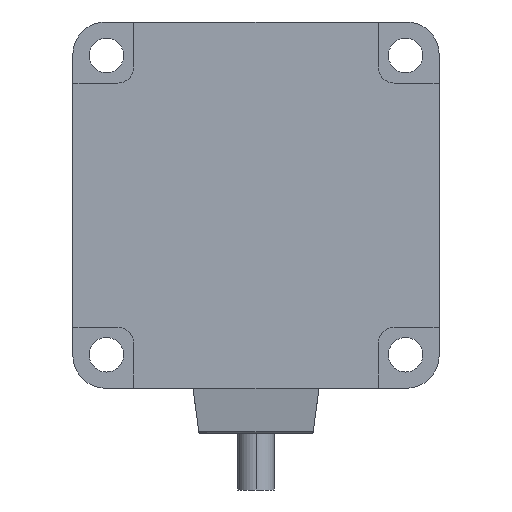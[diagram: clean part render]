
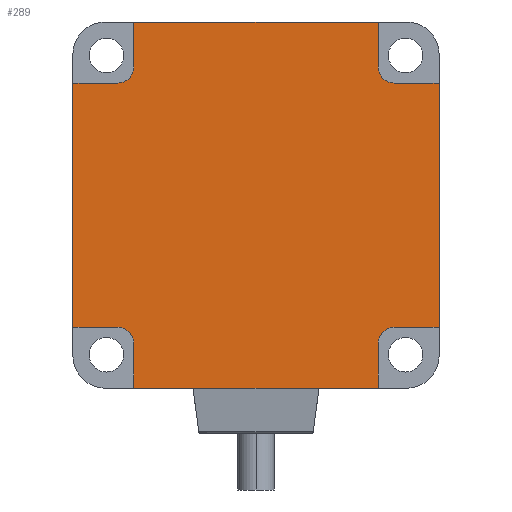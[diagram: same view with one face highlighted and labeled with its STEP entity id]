
A CAD part, left-side view. The second image highlights one B-rep face of the part: STEP entity #289.
In plain terms, the highlighted planar face has unit normal (-1, 0, 0).
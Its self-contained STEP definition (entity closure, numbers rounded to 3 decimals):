
#150=CARTESIAN_POINT('POINT242630',(-59.,44.99,-30.));
#151=VERTEX_POINT('VERTEX242630',#150);
#152=CARTESIAN_POINT('POINT242631',(-59.,34.,-30.));
#153=VERTEX_POINT('VERTEX242631',#152);
#154=CARTESIAN_POINT('POS414231',(-59.,17.,-30.));
#155=DIRECTION('DIR602379',(0.,-1.,0.));
#156=VECTOR('VEC226083',#155,1.);
#157=LINE('STRAIGHT226083',#154,#156);
#158=EDGE_CURVE('EDGE375135',#151,#153,#157,.T.);
#159=ORIENTED_EDGE('COEDGE750433',*,*,#158,.T.);
#160=CARTESIAN_POINT('POINT242632',(-59.,30.,-34.));
#161=VERTEX_POINT('VERTEX242632',#160);
#162=CARTESIAN_POINT('POS414232',(-59.,34.,-34.));
#163=DIRECTION('DIR602380',(1.,0.,0.));
#164=DIRECTION('DIR602381',(0.,-1.,0.));
#165=AXIS2_PLACEMENT_3D('AXIS188149',#162,#163,#164);
#166=CIRCLE('ELLIPSE77205',#165,4.);
#167=EDGE_CURVE('EDGE375136',#153,#161,#166,.T.);
#168=ORIENTED_EDGE('COEDGE750434',*,*,#167,.T.);
#169=CARTESIAN_POINT('POINT242633',(-59.,30.,-44.99));
#170=VERTEX_POINT('VERTEX242633',#169);
#171=CARTESIAN_POINT('POS414233',(-59.,30.,-24.5));
#172=DIRECTION('DIR602382',(0.,0.,-1.));
#173=VECTOR('VEC226084',#172,1.);
#174=LINE('STRAIGHT226084',#171,#173);
#175=EDGE_CURVE('EDGE375137',#161,#170,#174,.T.);
#176=ORIENTED_EDGE('COEDGE750435',*,*,#175,.T.);
#177=CARTESIAN_POINT('POINT242634',(-59.,-30.,-44.99));
#178=VERTEX_POINT('VERTEX242634',#177);
#179=CARTESIAN_POINT('POS414234',(-59.,0.,-44.99));
#180=DIRECTION('DIR602383',(0.,1.,0.));
#181=VECTOR('VEC226085',#180,1.);
#182=LINE('STRAIGHT226085',#179,#181);
#183=EDGE_CURVE('EDGE375138',#178,#170,#182,.T.);
#184=ORIENTED_EDGE('COEDGE750436',*,*,#183,.F.);
#185=CARTESIAN_POINT('POINT242635',(-59.,-30.,-34.));
#186=VERTEX_POINT('VERTEX242635',#185);
#187=CARTESIAN_POINT('POS414235',(-59.,-30.,-17.));
#188=DIRECTION('DIR602384',(0.,0.,1.));
#189=VECTOR('VEC226086',#188,1.);
#190=LINE('STRAIGHT226086',#187,#189);
#191=EDGE_CURVE('EDGE375139',#178,#186,#190,.T.);
#192=ORIENTED_EDGE('COEDGE750437',*,*,#191,.T.);
#193=CARTESIAN_POINT('POINT242636',(-59.,-34.,-30.));
#194=VERTEX_POINT('VERTEX242636',#193);
#195=CARTESIAN_POINT('POS414236',(-59.,-34.,-34.));
#196=DIRECTION('DIR602385',(1.,0.,0.));
#197=DIRECTION('DIR602386',(0.,0.,1.));
#198=AXIS2_PLACEMENT_3D('AXIS188150',#195,#196,#197);
#199=CIRCLE('ELLIPSE77206',#198,4.);
#200=EDGE_CURVE('EDGE375140',#186,#194,#199,.T.);
#201=ORIENTED_EDGE('COEDGE750438',*,*,#200,.T.);
#202=CARTESIAN_POINT('POINT242637',(-59.,-44.99,-30.));
#203=VERTEX_POINT('VERTEX242637',#202);
#204=CARTESIAN_POINT('POS414237',(-59.,-24.5,-30.));
#205=DIRECTION('DIR602387',(0.,-1.,0.));
#206=VECTOR('VEC226087',#205,1.);
#207=LINE('STRAIGHT226087',#204,#206);
#208=EDGE_CURVE('EDGE375141',#194,#203,#207,.T.);
#209=ORIENTED_EDGE('COEDGE750439',*,*,#208,.T.);
#210=CARTESIAN_POINT('POINT242638',(-59.,-44.99,30.));
#211=VERTEX_POINT('VERTEX242638',#210);
#212=CARTESIAN_POINT('POS414238',(-59.,-44.99,37.));
#213=DIRECTION('DIR602388',(0.,0.,-1.));
#214=VECTOR('VEC226088',#213,1.);
#215=LINE('STRAIGHT226088',#212,#214);
#216=EDGE_CURVE('EDGE375142',#211,#203,#215,.T.);
#217=ORIENTED_EDGE('COEDGE750440',*,*,#216,.F.);
#218=CARTESIAN_POINT('POINT242639',(-59.,-34.,30.));
#219=VERTEX_POINT('VERTEX242639',#218);
#220=CARTESIAN_POINT('POS414239',(-59.,-17.,30.));
#221=DIRECTION('DIR602389',(0.,1.,0.));
#222=VECTOR('VEC226089',#221,1.);
#223=LINE('STRAIGHT226089',#220,#222);
#224=EDGE_CURVE('EDGE375143',#211,#219,#223,.T.);
#225=ORIENTED_EDGE('COEDGE750441',*,*,#224,.T.);
#226=CARTESIAN_POINT('POINT242640',(-59.,-30.,34.));
#227=VERTEX_POINT('VERTEX242640',#226);
#228=CARTESIAN_POINT('POS414240',(-59.,-34.,34.));
#229=DIRECTION('DIR602390',(1.,0.,0.));
#230=DIRECTION('DIR602391',(0.,1.,0.));
#231=AXIS2_PLACEMENT_3D('AXIS188151',#228,#229,#230);
#232=CIRCLE('ELLIPSE77207',#231,4.);
#233=EDGE_CURVE('EDGE375144',#219,#227,#232,.T.);
#234=ORIENTED_EDGE('COEDGE750442',*,*,#233,.T.);
#235=CARTESIAN_POINT('POINT242641',(-59.,-30.,44.99));
#236=VERTEX_POINT('VERTEX242641',#235);
#237=CARTESIAN_POINT('POS414241',(-59.,-30.,24.5));
#238=DIRECTION('DIR602392',(0.,0.,1.));
#239=VECTOR('VEC226090',#238,1.);
#240=LINE('STRAIGHT226090',#237,#239);
#241=EDGE_CURVE('EDGE375145',#227,#236,#240,.T.);
#242=ORIENTED_EDGE('COEDGE750443',*,*,#241,.T.);
#243=CARTESIAN_POINT('POINT242642',(-59.,30.,44.99));
#244=VERTEX_POINT('VERTEX242642',#243);
#245=CARTESIAN_POINT('POS414242',(-59.,37.,44.99));
#246=DIRECTION('DIR602393',(0.,-1.,0.));
#247=VECTOR('VEC226091',#246,1.);
#248=LINE('STRAIGHT226091',#245,#247);
#249=EDGE_CURVE('EDGE375146',#244,#236,#248,.T.);
#250=ORIENTED_EDGE('COEDGE750444',*,*,#249,.F.);
#251=CARTESIAN_POINT('POINT242643',(-59.,30.,34.));
#252=VERTEX_POINT('VERTEX242643',#251);
#253=CARTESIAN_POINT('POS414243',(-59.,30.,17.));
#254=DIRECTION('DIR602394',(0.,0.,-1.));
#255=VECTOR('VEC226092',#254,1.);
#256=LINE('STRAIGHT226092',#253,#255);
#257=EDGE_CURVE('EDGE375147',#244,#252,#256,.T.);
#258=ORIENTED_EDGE('COEDGE750445',*,*,#257,.T.);
#259=CARTESIAN_POINT('POINT242644',(-59.,34.,30.));
#260=VERTEX_POINT('VERTEX242644',#259);
#261=CARTESIAN_POINT('POS414244',(-59.,34.,34.));
#262=DIRECTION('DIR602395',(1.,0.,0.));
#263=DIRECTION('DIR602396',(0.,0.,-1.));
#264=AXIS2_PLACEMENT_3D('AXIS188152',#261,#262,#263);
#265=CIRCLE('ELLIPSE77208',#264,4.);
#266=EDGE_CURVE('EDGE375148',#252,#260,#265,.T.);
#267=ORIENTED_EDGE('COEDGE750446',*,*,#266,.T.);
#268=CARTESIAN_POINT('POINT242645',(-59.,44.99,30.));
#269=VERTEX_POINT('VERTEX242645',#268);
#270=CARTESIAN_POINT('POS414245',(-59.,24.5,30.));
#271=DIRECTION('DIR602397',(0.,1.,0.));
#272=VECTOR('VEC226093',#271,1.);
#273=LINE('STRAIGHT226093',#270,#272);
#274=EDGE_CURVE('EDGE375149',#260,#269,#273,.T.);
#275=ORIENTED_EDGE('COEDGE750447',*,*,#274,.T.);
#276=CARTESIAN_POINT('POS414246',(-59.,44.99,-37.));
#277=DIRECTION('DIR602398',(0.,0.,1.));
#278=VECTOR('VEC226094',#277,1.);
#279=LINE('STRAIGHT226094',#276,#278);
#280=EDGE_CURVE('EDGE375150',#151,#269,#279,.T.);
#281=ORIENTED_EDGE('COEDGE750448',*,*,#280,.F.);
#282=EDGE_LOOP('NONE',(#159,#168,#176,#184,#192,#201,#209,#217,#225,#234
   ,#242,#250,#258,#267,#275,#281));
#283=FACE_BOUND('LOOP1',#282,.T.);
#284=CARTESIAN_POINT('POS414247',(-59.,0.,
   0.));
#285=DIRECTION('DIR602399',(1.,0.,0.));
#286=DIRECTION('DIR602400',(0.,1.,0.));
#287=AXIS2_PLACEMENT_3D('AXIS188153',#284,#285,#286);
#288=PLANE('PLANE77331',#287);
#289=ADVANCED_FACE('FACE145694',(#283),#288,.F.);
